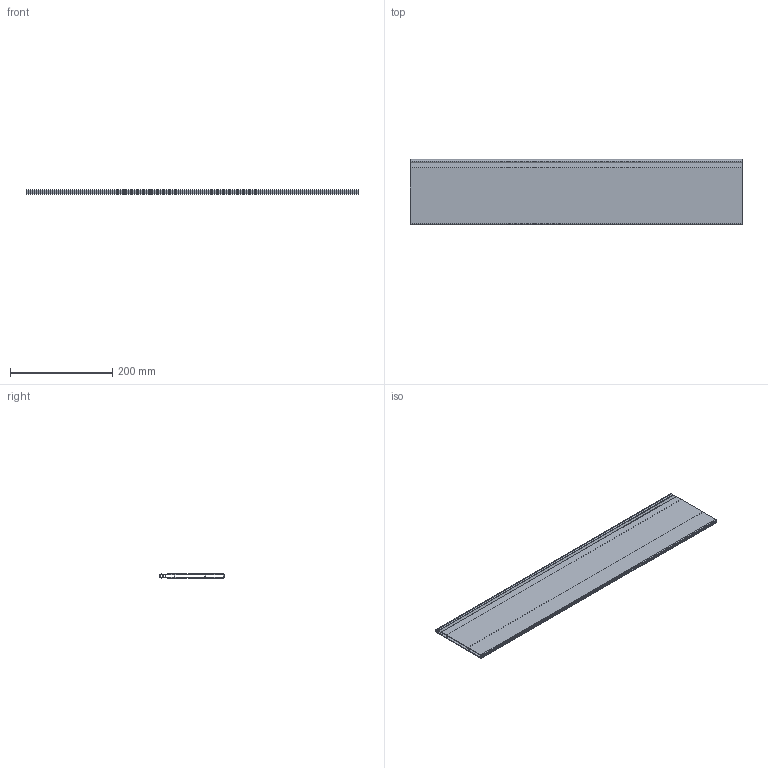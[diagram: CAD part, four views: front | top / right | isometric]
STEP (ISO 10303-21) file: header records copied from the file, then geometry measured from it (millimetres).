
FILE_DESCRIPTION (( 'STEP AP214' ), '1' );
FILE_NAME ('_Magic Optima Unterteilungsprofil DWD XP Agantis_Nova Pro KAB 800.step', '2010-08-17T12:26:47', ( 'grass' ), ( '' ), 'SwSTEP 2.0', 'SolidWorks 2010', '' );
FILE_SCHEMA (( 'AUTOMOTIVE_DESIGN' ));
Length unit declared in the file: millimetre
Products named in the file (1): _Magic Optima Unterteilungsprofil DWD XP Agantis_Nova Pro  KAB 800
Bounding box: 650 x 127.7 x 8.1 mm (x, y, z)
Volume: 227840.2 mm3; surface area: 353130.2 mm2
Topology: 1 solids, 1 shells, 39 faces, 111 edges, 74 vertices
Faces by surface type: plane 22, cylinder 17
Entity records: 1325 total; most frequent: CARTESIAN_POINT 225, DIRECTION 225, ORIENTED_EDGE 222, EDGE_CURVE 111, VECTOR 77, LINE 77, VERTEX_POINT 74, AXIS2_PLACEMENT_3D 74
